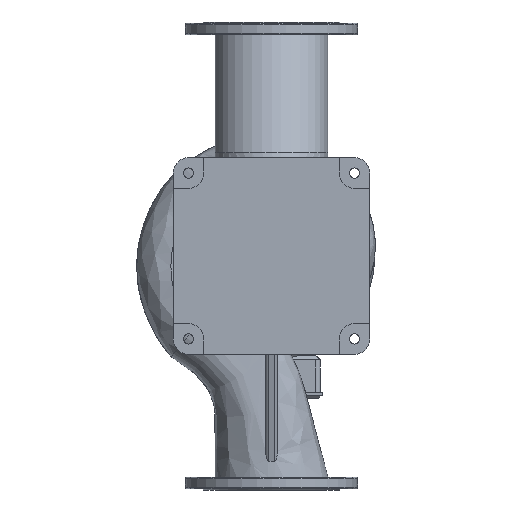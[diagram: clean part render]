
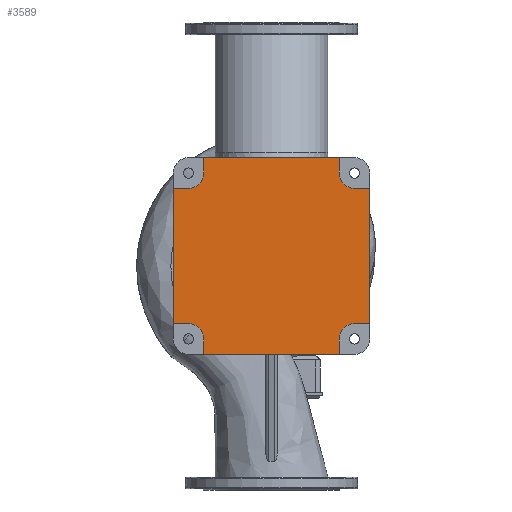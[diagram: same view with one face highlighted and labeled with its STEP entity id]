
A CAD part, front view. The second image highlights one B-rep face of the part: STEP entity #3589.
In plain terms, the highlighted planar face has unit normal (0, -1, 0).
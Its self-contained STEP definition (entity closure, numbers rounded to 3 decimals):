
#128 = VECTOR ( 'NONE', #28657, 1000. ) ;
#301 = DIRECTION ( 'NONE',  ( 0., 1., 0. ) ) ;
#341 = CARTESIAN_POINT ( 'NONE',  ( 159., -295., 231. ) ) ;
#496 = CARTESIAN_POINT ( 'NONE',  ( 195., -295., -159. ) ) ;
#533 = CARTESIAN_POINT ( 'NONE',  ( -195., -295., -159. ) ) ;
#1657 = ORIENTED_EDGE ( 'NONE', *, *, #21091, .T. ) ;
#1856 = CARTESIAN_POINT ( 'NONE',  ( -159., -295., 195. ) ) ;
#1985 = LINE ( 'NONE', #12927, #19820 ) ;
#2004 = ORIENTED_EDGE ( 'NONE', *, *, #31400, .T. ) ;
#2375 = DIRECTION ( 'NONE',  ( 0., 0., -1. ) ) ;
#2561 = CARTESIAN_POINT ( 'NONE',  ( -195., -295., -195. ) ) ;
#2747 = ORIENTED_EDGE ( 'NONE', *, *, #26402, .T. ) ;
#2911 = DIRECTION ( 'NONE',  ( 0., 0., 1. ) ) ;
#3231 = LINE ( 'NONE', #533, #28431 ) ;
#3589 = ADVANCED_FACE ( 'NONE', ( #16525 ), #16163, .F. ) ;
#3673 = EDGE_CURVE ( 'NONE', #10425, #5281, #5065, .T. ) ;
#3707 = ORIENTED_EDGE ( 'NONE', *, *, #7912, .T. ) ;
#3895 = LINE ( 'NONE', #8555, #28858 ) ;
#4379 = LINE ( 'NONE', #23364, #11042 ) ;
#4534 = CARTESIAN_POINT ( 'NONE',  ( 159., -295., -231. ) ) ;
#5065 = LINE ( 'NONE', #15987, #6727 ) ;
#5281 = VERTEX_POINT ( 'NONE', #16312 ) ;
#5834 = ORIENTED_EDGE ( 'NONE', *, *, #17383, .T. ) ;
#6237 = DIRECTION ( 'NONE',  ( 0., 1., 0. ) ) ;
#6369 = DIRECTION ( 'NONE',  ( -1., 0., 0. ) ) ;
#6464 = CARTESIAN_POINT ( 'NONE',  ( -195., -295., -195. ) ) ;
#6727 = VECTOR ( 'NONE', #2375, 1000. ) ;
#6943 = CARTESIAN_POINT ( 'NONE',  ( 231., -295., 159. ) ) ;
#6988 = CARTESIAN_POINT ( 'NONE',  ( -195., -295., 195. ) ) ;
#7687 = VECTOR ( 'NONE', #29293, 1000. ) ;
#7912 = EDGE_CURVE ( 'NONE', #23853, #28598, #17175, .T. ) ;
#8003 = CARTESIAN_POINT ( 'NONE',  ( -159., -295., 195. ) ) ;
#8440 = AXIS2_PLACEMENT_3D ( 'NONE', #2561, #27278, #2911 ) ;
#8555 = CARTESIAN_POINT ( 'NONE',  ( 195., -295., -159. ) ) ;
#8764 = DIRECTION ( 'NONE',  ( 1., 0., 0. ) ) ;
#9162 = VERTEX_POINT ( 'NONE', #25144 ) ;
#9746 = AXIS2_PLACEMENT_3D ( 'NONE', #6464, #31356, #12360 ) ;
#10088 = VECTOR ( 'NONE', #12421, 1000. ) ;
#10322 = ORIENTED_EDGE ( 'NONE', *, *, #18643, .T. ) ;
#10335 = CARTESIAN_POINT ( 'NONE',  ( 159., -295., -195. ) ) ;
#10425 = VERTEX_POINT ( 'NONE', #11145 ) ;
#10644 = LINE ( 'NONE', #14514, #14260 ) ;
#11042 = VECTOR ( 'NONE', #6369, 1000. ) ;
#11145 = CARTESIAN_POINT ( 'NONE',  ( -231., -295., 159. ) ) ;
#11440 = EDGE_CURVE ( 'NONE', #14900, #26336, #27354, .T. ) ;
#11847 = AXIS2_PLACEMENT_3D ( 'NONE', #14833, #6237, #33973 ) ;
#12105 = VERTEX_POINT ( 'NONE', #21309 ) ;
#12360 = DIRECTION ( 'NONE',  ( 0., 0., 1. ) ) ;
#12421 = DIRECTION ( 'NONE',  ( 1., 0., 0. ) ) ;
#12556 = EDGE_LOOP ( 'NONE', ( #3707, #24576, #5834, #27274, #12937, #30478, #1657, #19204, #2747, #25754, #28722, #10322, #2004, #21261, #17118, #15988 ) ) ;
#12632 = LINE ( 'NONE', #20858, #30208 ) ;
#12927 = CARTESIAN_POINT ( 'NONE',  ( -159., -295., -195. ) ) ;
#12937 = ORIENTED_EDGE ( 'NONE', *, *, #11440, .T. ) ;
#12970 = EDGE_CURVE ( 'NONE', #18854, #32921, #10644, .T. ) ;
#13343 = LINE ( 'NONE', #16917, #32187 ) ;
#13537 = LINE ( 'NONE', #32334, #7687 ) ;
#13583 = CARTESIAN_POINT ( 'NONE',  ( 195., -295., -195. ) ) ;
#13800 = CARTESIAN_POINT ( 'NONE',  ( -195., -295., 159. ) ) ;
#14260 = VECTOR ( 'NONE', #24763, 1000. ) ;
#14514 = CARTESIAN_POINT ( 'NONE',  ( 159., -295., 195. ) ) ;
#14533 = DIRECTION ( 'NONE',  ( 0., 1., 0. ) ) ;
#14833 = CARTESIAN_POINT ( 'NONE',  ( 195., -295., 195. ) ) ;
#14900 = VERTEX_POINT ( 'NONE', #10335 ) ;
#14967 = DIRECTION ( 'NONE',  ( 0., 0., 1. ) ) ;
#15247 = CARTESIAN_POINT ( 'NONE',  ( 159., -295., -231. ) ) ;
#15389 = LINE ( 'NONE', #23969, #32951 ) ;
#15440 = EDGE_CURVE ( 'NONE', #23418, #14900, #12632, .T. ) ;
#15987 = CARTESIAN_POINT ( 'NONE',  ( -231., -295., -159. ) ) ;
#15988 = ORIENTED_EDGE ( 'NONE', *, *, #35394, .T. ) ;
#16163 = PLANE ( 'NONE',  #8440 ) ;
#16312 = CARTESIAN_POINT ( 'NONE',  ( -231., -295., -159. ) ) ;
#16525 = FACE_OUTER_BOUND ( 'NONE', #12556, .T. ) ;
#16816 = AXIS2_PLACEMENT_3D ( 'NONE', #6988, #14533, #34390 ) ;
#16917 = CARTESIAN_POINT ( 'NONE',  ( -195., -295., 159. ) ) ;
#17118 = ORIENTED_EDGE ( 'NONE', *, *, #3673, .T. ) ;
#17175 = CIRCLE ( 'NONE', #9746, 36. ) ;
#17383 = EDGE_CURVE ( 'NONE', #9162, #23418, #28897, .T. ) ;
#18000 = VERTEX_POINT ( 'NONE', #6943 ) ;
#18643 = EDGE_CURVE ( 'NONE', #28370, #25671, #24475, .T. ) ;
#18854 = VERTEX_POINT ( 'NONE', #21957 ) ;
#19084 = EDGE_CURVE ( 'NONE', #18000, #34002, #4379, .T. ) ;
#19204 = ORIENTED_EDGE ( 'NONE', *, *, #19084, .T. ) ;
#19820 = VECTOR ( 'NONE', #33891, 1000. ) ;
#20467 = AXIS2_PLACEMENT_3D ( 'NONE', #13583, #301, #35429 ) ;
#20858 = CARTESIAN_POINT ( 'NONE',  ( 159., -295., -195. ) ) ;
#21091 = EDGE_CURVE ( 'NONE', #12105, #18000, #13537, .T. ) ;
#21261 = ORIENTED_EDGE ( 'NONE', *, *, #28139, .T. ) ;
#21309 = CARTESIAN_POINT ( 'NONE',  ( 231., -295., -159. ) ) ;
#21957 = CARTESIAN_POINT ( 'NONE',  ( 159., -295., 195. ) ) ;
#22969 = CARTESIAN_POINT ( 'NONE',  ( -159., -295., 231. ) ) ;
#23085 = CIRCLE ( 'NONE', #16816, 36. ) ;
#23364 = CARTESIAN_POINT ( 'NONE',  ( 195., -295., 159. ) ) ;
#23418 = VERTEX_POINT ( 'NONE', #15247 ) ;
#23853 = VERTEX_POINT ( 'NONE', #28997 ) ;
#23969 = CARTESIAN_POINT ( 'NONE',  ( -159., -295., 231. ) ) ;
#24475 = LINE ( 'NONE', #8003, #128 ) ;
#24576 = ORIENTED_EDGE ( 'NONE', *, *, #27694, .T. ) ;
#24763 = DIRECTION ( 'NONE',  ( 0., 0., 1. ) ) ;
#25064 = EDGE_CURVE ( 'NONE', #32921, #28370, #15389, .T. ) ;
#25144 = CARTESIAN_POINT ( 'NONE',  ( -159., -295., -231. ) ) ;
#25671 = VERTEX_POINT ( 'NONE', #1856 ) ;
#25754 = ORIENTED_EDGE ( 'NONE', *, *, #12970, .T. ) ;
#26304 = DIRECTION ( 'NONE',  ( -1., 0., 0. ) ) ;
#26336 = VERTEX_POINT ( 'NONE', #496 ) ;
#26402 = EDGE_CURVE ( 'NONE', #34002, #18854, #27301, .T. ) ;
#27274 = ORIENTED_EDGE ( 'NONE', *, *, #15440, .T. ) ;
#27278 = DIRECTION ( 'NONE',  ( 0., 1., 0. ) ) ;
#27301 = CIRCLE ( 'NONE', #11847, 36. ) ;
#27354 = CIRCLE ( 'NONE', #20467, 36. ) ;
#27694 = EDGE_CURVE ( 'NONE', #28598, #9162, #1985, .T. ) ;
#28139 = EDGE_CURVE ( 'NONE', #29994, #10425, #13343, .T. ) ;
#28370 = VERTEX_POINT ( 'NONE', #22969 ) ;
#28431 = VECTOR ( 'NONE', #8764, 1000. ) ;
#28598 = VERTEX_POINT ( 'NONE', #32818 ) ;
#28657 = DIRECTION ( 'NONE',  ( 0., 0., -1. ) ) ;
#28722 = ORIENTED_EDGE ( 'NONE', *, *, #25064, .T. ) ;
#28858 = VECTOR ( 'NONE', #30776, 1000. ) ;
#28897 = LINE ( 'NONE', #4534, #10088 ) ;
#28997 = CARTESIAN_POINT ( 'NONE',  ( -195., -295., -159. ) ) ;
#29293 = DIRECTION ( 'NONE',  ( 0., 0., 1. ) ) ;
#29994 = VERTEX_POINT ( 'NONE', #13800 ) ;
#30186 = DIRECTION ( 'NONE',  ( -1., 0., 0. ) ) ;
#30208 = VECTOR ( 'NONE', #14967, 1000. ) ;
#30454 = EDGE_CURVE ( 'NONE', #26336, #12105, #3895, .T. ) ;
#30478 = ORIENTED_EDGE ( 'NONE', *, *, #30454, .T. ) ;
#30776 = DIRECTION ( 'NONE',  ( 1., 0., 0. ) ) ;
#31356 = DIRECTION ( 'NONE',  ( 0., 1., 0. ) ) ;
#31400 = EDGE_CURVE ( 'NONE', #25671, #29994, #23085, .T. ) ;
#32187 = VECTOR ( 'NONE', #30186, 1000. ) ;
#32334 = CARTESIAN_POINT ( 'NONE',  ( 231., -295., 159. ) ) ;
#32818 = CARTESIAN_POINT ( 'NONE',  ( -159., -295., -195. ) ) ;
#32921 = VERTEX_POINT ( 'NONE', #341 ) ;
#32951 = VECTOR ( 'NONE', #26304, 1000. ) ;
#33891 = DIRECTION ( 'NONE',  ( 0., 0., -1. ) ) ;
#33973 = DIRECTION ( 'NONE',  ( 0., 0., 1. ) ) ;
#34002 = VERTEX_POINT ( 'NONE', #35353 ) ;
#34390 = DIRECTION ( 'NONE',  ( 0., 0., 1. ) ) ;
#35353 = CARTESIAN_POINT ( 'NONE',  ( 195., -295., 159. ) ) ;
#35394 = EDGE_CURVE ( 'NONE', #5281, #23853, #3231, .T. ) ;
#35429 = DIRECTION ( 'NONE',  ( 0., 0., 1. ) ) ;
